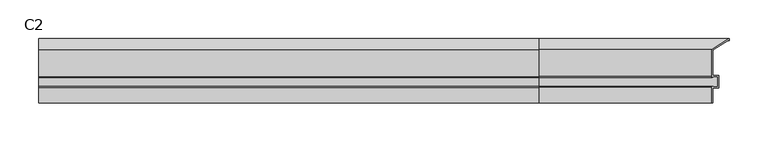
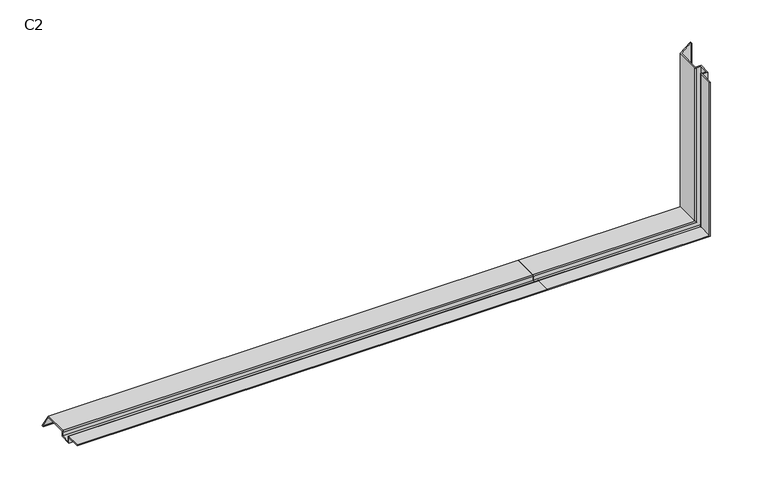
"""IFC4 building model written with IfcOpenShell, lengths in millimetres: proxy geometry, C2 profil cokolowy : C2."""

from ifc_helpers import new_model, si_unit, point, frame, frame_2d, origin, place, context, project, spatial, polyline, circle_curve, ellipse_curve, trimmed, segment, composite_curve, outline, extrude, source, transform, mapped, element, save
from ifc_brep_helpers import plane_surface, cylinder_surface, advanced_brep


def c2_f27c1ca5(model_context):
    return source(origin(), model_context, "Body", "SolidModel", [
        advanced_brep(
        [(646.0, -62.6, 22.4417007), (646.0, -62.6, 16.8000012), (646.0, -49.2, 16.8000012), (646.0, -49.2, 22.4417007), (646.0, -48.9, 24.6000012), (646.0, -14.2215416, 24.6000012), (646.0, 0.0, 2.6407585), (646.0, 0.0, 1.8218762), (646.0, -2.4884184, 1.8218762), (646.0, -2.4884184, 2.700191), (646.0, -1.6694319, 2.700191), (646.0, -14.9821643, 23.2000012), (646.0, -47.8, 23.2000012), (646.0, -47.8, 15.4000012), (646.0, -64.0, 15.4000012), (646.0, -64.0, 23.2000012), (646.0, -83.4, 23.2000012), (646.0, -83.4, 24.6000012), (646.0, -62.9, 24.6000012), (870.5582993, -62.6, 247.0), (868.3999988, -62.9, 247.0), (868.3999988, -83.4, 247.0), (869.7999988, -83.4, 247.0), (869.7999988, -64.0, 247.0), (877.5999988, -64.0, 247.0), (877.5999988, -47.8, 247.0), (869.7999988, -47.8, 247.0), (869.7999988, -14.9821643, 247.0), (890.299809, -1.6694319, 247.0), (890.299809, -2.4884184, 247.0), (891.1781238, -2.4884184, 247.0), (891.1781238, 0.0, 247.0), (890.3592415, 0.0, 247.0), (868.3999988, -14.2215416, 247.0), (868.3999988, -48.9, 247.0), (870.5582993, -49.2, 247.0), (876.1999988, -49.2, 247.0), (876.1999988, -62.6, 247.0), (870.5582993, -62.6, 22.4417007), (876.1999988, -62.6, 16.8000012), (876.1999988, -49.2, 16.8000012), (870.5582993, -49.2, 22.4417007), (868.3999988, -48.9, 24.6000012), (868.3999988, -14.2215416, 24.6000012), (890.3592415, 0.0, 2.6407585), (891.1781238, 0.0, 1.8218762), (891.1781238, -2.4884184, 1.8218762), (890.299809, -2.4884184, 2.700191), (890.299809, -1.6694319, 2.700191), (869.7999988, -14.9821643, 23.2000012), (869.7999988, -47.8, 23.2000012), (877.5999988, -47.8, 15.4000012), (877.5999988, -64.0, 15.4000012), (869.7999988, -64.0, 23.2000012), (869.7999988, -83.4, 23.2000012), (868.3999988, -83.4, 24.6000012), (868.3999988, -62.9, 24.6000012)],
        [
            (0, 1),
            (1, 2),
            (2, 3),
            (3, 4, circle_curve(frame((646.0, -48.9, 23.5000012), z_axis=(-1.0, 0.0, 0.0), x_axis=(0.0, 0.0, 1.0)), 1.1)),
            (4, 5),
            (5, 6),
            (6, 7),
            (7, 8),
            (8, 9),
            (9, 10),
            (10, 11),
            (11, 12),
            (12, 13),
            (13, 14),
            (14, 15),
            (15, 16),
            (16, 17),
            (17, 18),
            (18, 0, circle_curve(frame((646.0, -62.9, 23.5000012), z_axis=(-1.0, 0.0, 0.0), x_axis=(0.0, 0.0, 1.0)), 1.1)),
            (19, 20, circle_curve(frame((869.4999988, -62.9, 247.0), z_axis=(0.0, 0.0, 1.0), x_axis=(-1.0, 0.0, 0.0)), 1.1)),
            (20, 21),
            (21, 22),
            (22, 23),
            (23, 24),
            (24, 25),
            (25, 26),
            (26, 27),
            (27, 28),
            (28, 29),
            (29, 30),
            (30, 31),
            (31, 32),
            (32, 33),
            (33, 34),
            (34, 35, circle_curve(frame((869.4999988, -48.9, 247.0), z_axis=(0.0, 0.0, 1.0), x_axis=(-1.0, 0.0, 0.0)), 1.1)),
            (35, 36),
            (36, 37),
            (37, 19),
            (0, 38),
            (38, 19),
            (37, 39),
            (39, 1),
            (39, 40),
            (40, 2),
            (40, 36),
            (35, 41),
            (41, 3),
            (41, 42, ellipse_curve(frame((869.4999988, -48.9, 23.5000012), z_axis=(-0.7071067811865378, 0.0, -0.7071067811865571), x_axis=(-0.7071067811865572, 0.0, 0.7071067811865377)), 1.5556349, 1.1)),
            (42, 4),
            (42, 43),
            (43, 5),
            (43, 44),
            (44, 6),
            (44, 32),
            (31, 45),
            (45, 7),
            (45, 46),
            (46, 8),
            (46, 30),
            (29, 47),
            (47, 9),
            (47, 48),
            (48, 10),
            (48, 49),
            (49, 11),
            (49, 50),
            (50, 12),
            (50, 26),
            (25, 51),
            (51, 13),
            (51, 52),
            (52, 14),
            (52, 24),
            (23, 53),
            (53, 15),
            (53, 54),
            (54, 16),
            (54, 22),
            (21, 55),
            (55, 17),
            (55, 56),
            (56, 18),
            (56, 38, ellipse_curve(frame((869.4999988, -62.9, 23.5000012), z_axis=(-0.7071067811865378, 0.0, -0.7071067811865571), x_axis=(-0.7071067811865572, 0.0, 0.7071067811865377)), 1.5556349, 1.1)),
            (34, 42),
            (33, 43),
            (28, 48),
            (27, 49),
            (20, 56),
        ],
        [
            plane_surface(frame((646.0, 0.0, 0.0), z_axis=(-1.0, 0.0, 0.0), x_axis=(0.0, 1.0, 0.0))),
            plane_surface(frame((893.0, 0.0, 247.0), z_axis=(0.0, 0.0, 1.0), x_axis=(0.0, 1.0, 0.0))),
            plane_surface(frame((646.0, -62.6, 16.8000012), z_axis=(0.0, 1.0, 0.0), x_axis=(1.0, 0.0, 0.0))),
            plane_surface(frame((646.0, -49.2, 16.8000012), z_axis=(0.0, 0.0, 1.0), x_axis=(1.0, 0.0, 0.0))),
            plane_surface(frame((646.0, -49.2, 22.4417007), z_axis=(0.0, -1.0, 0.0), x_axis=(1.0, 0.0, 0.0))),
            cylinder_surface(frame((646.0, -48.9, 23.5000012), z_axis=(-1.0, 0.0, 0.0), x_axis=(0.0, 0.0, 1.0)), 1.1),
            plane_surface(frame((646.0, -14.2215416, 24.6000012), z_axis=(0.0, 0.0, 1.0), x_axis=(1.0, 0.0, 0.0))),
            plane_surface(frame((646.0, 0.0, 2.6407585), z_axis=(0.0, 0.8393500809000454, 0.5435912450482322), x_axis=(1.0, 0.0, 0.0))),
            plane_surface(frame((646.0, 0.0, 1.8218762), z_axis=(0.0, 1.0, 0.0), x_axis=(1.0, 0.0, 0.0))),
            plane_surface(frame((646.0, -2.4884184, 1.8218762), z_axis=(0.0, 0.0, -1.0), x_axis=(1.0, 0.0, 0.0))),
            plane_surface(frame((646.0, -2.4884184, 2.700191), z_axis=(0.0, -1.0, 0.0), x_axis=(1.0, 0.0, 0.0))),
            plane_surface(frame((646.0, -1.6694319, 2.700191), z_axis=(0.0, 0.0, 1.0), x_axis=(1.0, 0.0, 0.0))),
            plane_surface(frame((646.0, -14.9821643, 23.2000012), z_axis=(0.0, -0.838670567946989, -0.5446390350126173), x_axis=(1.0, 0.0, 0.0))),
            plane_surface(frame((646.0, -47.8, 23.2000012), z_axis=(0.0, 0.0, -1.0), x_axis=(1.0, 0.0, 0.0))),
            plane_surface(frame((646.0, -47.8, 15.4000012), z_axis=(0.0, 1.0, 0.0), x_axis=(1.0, 0.0, 0.0))),
            plane_surface(frame((646.0, -64.0, 15.4000012), z_axis=(0.0, 0.0, -1.0), x_axis=(1.0, 0.0, 0.0))),
            plane_surface(frame((646.0, -64.0, 23.2000012), z_axis=(0.0, -1.0, 0.0), x_axis=(1.0, 0.0, 0.0))),
            plane_surface(frame((646.0, -83.4, 23.2000012), z_axis=(0.0, 0.0, -1.0), x_axis=(1.0, 0.0, 0.0))),
            plane_surface(frame((646.0, -83.4, 24.6000012), z_axis=(0.0, -1.0, 0.0), x_axis=(1.0, 0.0, 0.0))),
            plane_surface(frame((646.0, -62.9, 24.6000012), z_axis=(0.0, 0.0, 1.0), x_axis=(1.0, 0.0, 0.0))),
            cylinder_surface(frame((646.0, -62.9, 23.5000012), z_axis=(-1.0, 0.0, 0.0), x_axis=(0.0, 0.0, 1.0)), 1.1),
            plane_surface(frame((876.1999988, -49.2, 16.8000012), z_axis=(-1.0, 0.0, 0.0), x_axis=(0.0, 0.0, 1.0))),
            cylinder_surface(frame((869.4999988, -48.9, 0.0), z_axis=(0.0, 0.0, -1.0), x_axis=(-1.0, 0.0, 0.0)), 1.1),
            plane_surface(frame((868.3999988, -14.2215416, 24.6000012), z_axis=(-1.0, 0.0, 0.0), x_axis=(0.0, 0.0, 1.0))),
            plane_surface(frame((890.3592415, 0.0, 2.6407585), z_axis=(-0.5435912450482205, 0.8393500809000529, 0.0), x_axis=(0.0, 0.0, 1.0))),
            plane_surface(frame((891.1781238, -2.4884184, 1.8218762), z_axis=(1.0, 0.0, 0.0), x_axis=(0.0, 0.0, 1.0))),
            plane_surface(frame((890.299809, -1.6694319, 2.700191), z_axis=(-1.0, 0.0, 0.0), x_axis=(0.0, 0.0, 1.0))),
            plane_surface(frame((869.7999988, -14.9821643, 23.2000012), z_axis=(0.5446390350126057, -0.8386705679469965, 0.0), x_axis=(0.0, 0.0, 1.0))),
            plane_surface(frame((869.7999988, -47.8, 23.2000012), z_axis=(1.0, 0.0, 0.0), x_axis=(0.0, 0.0, 1.0))),
            plane_surface(frame((877.5999988, -64.0, 15.4000012), z_axis=(1.0, 0.0, 0.0), x_axis=(0.0, 0.0, 1.0))),
            plane_surface(frame((869.7999988, -83.4, 23.2000012), z_axis=(1.0, 0.0, 0.0), x_axis=(0.0, 0.0, 1.0))),
            plane_surface(frame((868.3999988, -62.9, 24.6000012), z_axis=(-1.0, 0.0, 0.0), x_axis=(0.0, 0.0, 1.0))),
            cylinder_surface(frame((869.4999988, -62.9, 0.0), z_axis=(0.0, 0.0, -1.0), x_axis=(-1.0, 0.0, 0.0)), 1.1),
        ],
        [
            (0, [[1, 2, 3, 4, 5, 6, 7, 8, 9, 10, 11, 12, 13, 14, 15, 16, 17, 18, 19]]),
            (1, [[20, 21, 22, 23, 24, 25, 26, 27, 28, 29, 30, 31, 32, 33, 34, 35, 36, 37, 38]]),
            (2, [[39, 40, -38, 41, 42, -1]]),
            (3, [[-42, 43, 44, -2]]),
            (4, [[-44, 45, -36, 46, 47, -3]]),
            (5, [[-47, 48, 49, -4]]),
            (6, [[-49, 50, 51, -5]]),
            (7, [[-51, 52, 53, -6]]),
            (8, [[-53, 54, -32, 55, 56, -7]]),
            (9, [[-56, 57, 58, -8]]),
            (10, [[-58, 59, -30, 60, 61, -9]]),
            (11, [[-61, 62, 63, -10]]),
            (12, [[-63, 64, 65, -11]]),
            (13, [[-65, 66, 67, -12]]),
            (14, [[-67, 68, -26, 69, 70, -13]]),
            (15, [[-70, 71, 72, -14]]),
            (16, [[-72, 73, -24, 74, 75, -15]]),
            (17, [[-75, 76, 77, -16]]),
            (18, [[-77, 78, -22, 79, 80, -17]]),
            (19, [[-80, 81, 82, -18]]),
            (20, [[-82, 83, -39, -19]]),
            (21, [[-41, -37, -45, -43]]),
            (22, [[-46, -35, 84, -48]]),
            (23, [[-84, -34, 85, -50]]),
            (24, [[-85, -33, -54, -52]]),
            (25, [[-55, -31, -59, -57]]),
            (26, [[-60, -29, 86, -62]]),
            (27, [[-86, -28, 87, -64]]),
            (28, [[-87, -27, -68, -66]]),
            (29, [[-69, -25, -73, -71]]),
            (30, [[-74, -23, -78, -76]]),
            (31, [[-79, -21, 88, -81]]),
            (32, [[-88, -20, -40, -83]]),
        ],
    ),
        extrude(outline(composite_curve([segment(polyline([(-62.6, 22.4417007), (-62.6, 16.8000012), (-49.2, 16.8000012), (-49.2, 22.4417007)]), True, "CONTINUOUS"), segment(trimmed(circle_curve(frame_2d((-48.9, 23.5000012)), 1.1), [point((-49.2, 22.4417007))], [point((-48.9, 24.6000012))], False, "CARTESIAN"), True, "CONTINUOUS"), segment(polyline([(-48.9, 24.6000012), (-14.2215416, 24.6000012), (0.0, 2.6407585), (0.0, 1.8218762), (-2.4884184, 1.8218762), (-2.4884184, 2.700191), (-1.6694319, 2.700191), (-14.9821643, 23.2000012), (-47.8, 23.2000012), (-47.8, 15.4000012), (-64.0, 15.4000012), (-64.0, 23.2000012), (-83.4, 23.2000012), (-83.4, 24.6000012), (-62.9, 24.6000012)]), True, "CONTINUOUS"), segment(trimmed(circle_curve(frame_2d((-62.9, 23.5000012)), 1.1), [point((-62.9, 24.6000012))], [point((-62.6, 22.4417007))], False, "CARTESIAN"), True, "CONTINUOUS")], self_intersect=False)), frame((0.0, 0.0, 0.0), z_axis=(1.0, 0.0, 0.0), x_axis=(0.0, 1.0, 0.0)), (0.0, 0.0, 1.0), 646.0),
    ])


if __name__ == "__main__":
    model = new_model("IFC4")
    model_context = context("Model", 3, world=origin())
    ifc_project = project(units=[si_unit("LENGTHUNIT", "METRE", prefix="MILLI")], contexts=[model_context])
    site = spatial("IfcSite", under=ifc_project)
    building = spatial("IfcBuilding", under=site)
    placement = place(None, origin())
    c2_shape = c2_f27c1ca5(model_context)
    element("IfcBuildingElementProxy", 1, Name="C2 profil cokolowy : C2", ObjectType="C2 profil cokolowy : C2", at=placement, inside=building, context=model_context, shape_type="MappedRepresentation", body=[
        mapped(c2_shape, transform((0.0, 0.0, 0.0), x_axis=(1.0, 0.0, 0.0), y_axis=(0.0, 1.0, 0.0), z_axis=(0.0, 0.0, 1.0))),
    ])
    save(model, "model.ifc")
